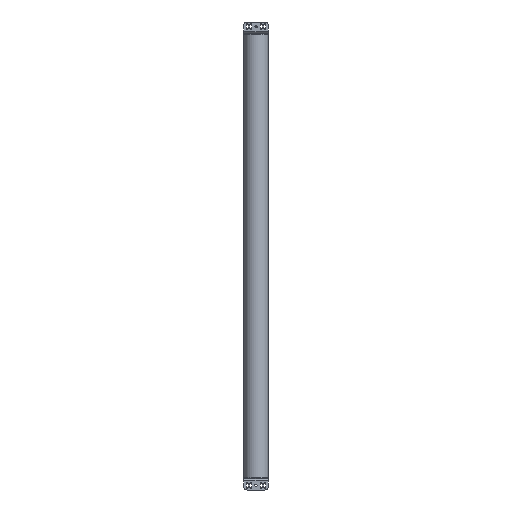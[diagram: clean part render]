
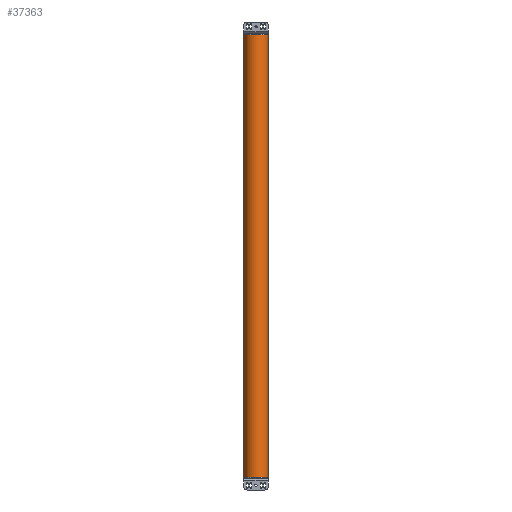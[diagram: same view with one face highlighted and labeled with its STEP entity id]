
A CAD part, front view. The second image highlights one B-rep face of the part: STEP entity #37363.
In plain terms, the highlighted cylindrical face has radius 35 mm (diameter 70 mm), a partial arc.
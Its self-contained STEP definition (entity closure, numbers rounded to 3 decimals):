
#37192=CARTESIAN_POINT('',(0.,0.,0.));
#37193=DIRECTION('',(0.,0.,1.));
#37194=DIRECTION('',(-1.,0.,0.));
#37195=AXIS2_PLACEMENT_3D('',#37192,#37193,#37194);
#37238=CARTESIAN_POINT('',(0.,0.,-1268.5));
#37239=DIRECTION('',(0.,0.,1.));
#37240=DIRECTION('',(-1.,0.,0.));
#37241=AXIS2_PLACEMENT_3D('',#37238,#37239,#37240);
#37246=DIRECTION('',(0.,0.,-1.));
#37247=VECTOR('',#37246,1268.5);
#37248=CARTESIAN_POINT('',(35.,0.,0.));
#37249=LINE('',#37248,#37247);
#37253=DIRECTION('',(0.,0.,-1.));
#37254=VECTOR('',#37253,1268.5);
#37255=CARTESIAN_POINT('',(-35.,0.,0.));
#37256=LINE('',#37255,#37254);
#37264=CARTESIAN_POINT('',(35.,0.,0.));
#37265=CARTESIAN_POINT('',(-35.,0.,0.));
#37266=VERTEX_POINT('',#37264);
#37267=VERTEX_POINT('',#37265);
#37272=CARTESIAN_POINT('',(35.,0.,-1268.5));
#37273=CARTESIAN_POINT('',(-35.,0.,-1268.5));
#37274=VERTEX_POINT('',#37272);
#37275=VERTEX_POINT('',#37273);
#37352=CARTESIAN_POINT('',(0.,0.,0.));
#37353=DIRECTION('',(0.,0.,1.));
#37354=DIRECTION('',(1.,0.,0.));
#37355=AXIS2_PLACEMENT_3D('',#37352,#37353,#37354);
#37356=CYLINDRICAL_SURFACE('',#37355,35.);
#37357=ORIENTED_EDGE('',*,*,#37283,.T.);
#37358=ORIENTED_EDGE('',*,*,#37347,.T.);
#37359=ORIENTED_EDGE('',*,*,#37329,.F.);
#37360=ORIENTED_EDGE('',*,*,#37344,.F.);
#37361=EDGE_LOOP('',(#37357,#37358,#37359,#37360));
#37362=FACE_OUTER_BOUND('',#37361,.F.);
#37196=CIRCLE('',#37195,35.);
#37242=CIRCLE('',#37241,35.);
#37283=EDGE_CURVE('',#37267,#37266,#37196,.T.);
#37329=EDGE_CURVE('',#37275,#37274,#37242,.T.);
#37344=EDGE_CURVE('',#37267,#37275,#37256,.T.);
#37347=EDGE_CURVE('',#37266,#37274,#37249,.T.);
#37363=ADVANCED_FACE('',(#37362),#37356,.T.);
